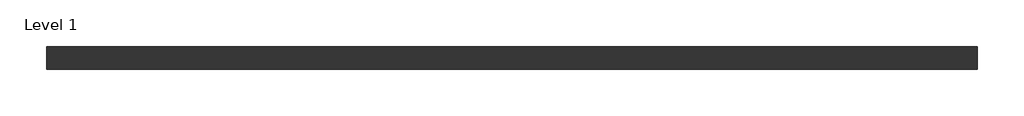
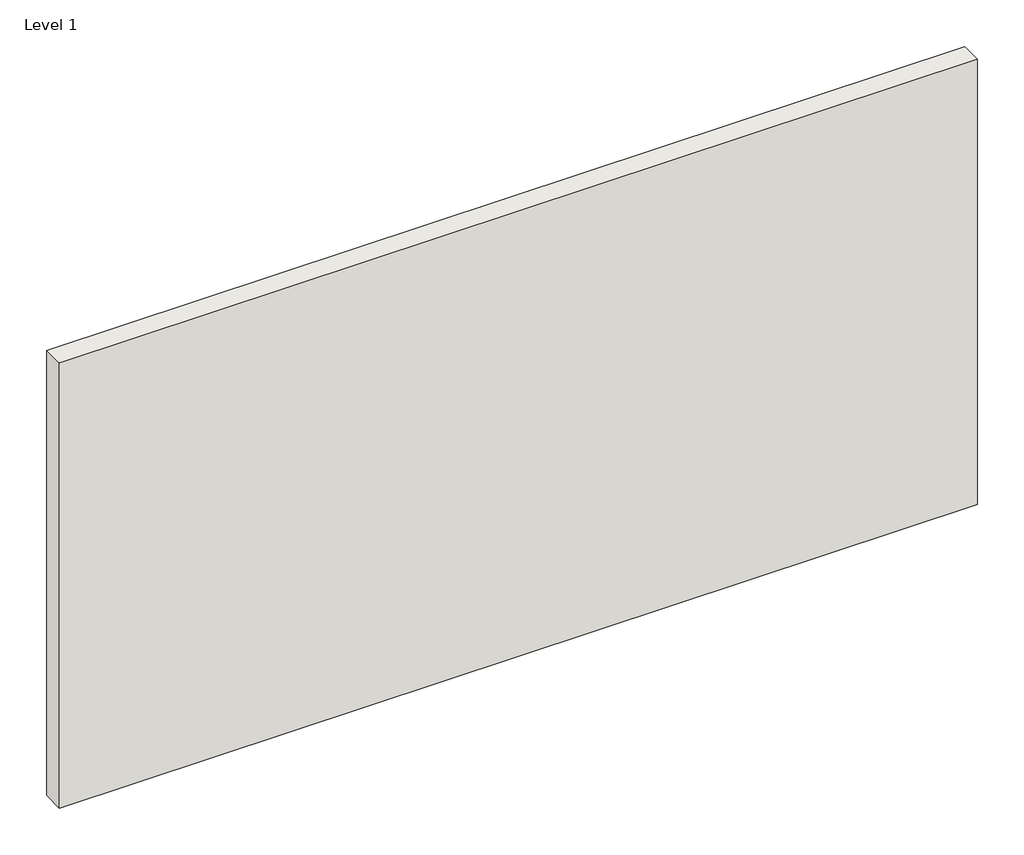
# One storey: 1 wall.
"""IFC4 building model written with IfcOpenShell, lengths in millimetres."""

from ifc_helpers import new_model, si_unit, origin, origin_with_axes, place, context, project, spatial, polyline, outline, extrude, element, save

model = new_model("IFC4")

# Units and contexts
model_context = context("Model", 3, world=origin())
ifc_project = project(units=[si_unit("LENGTHUNIT", "METRE", prefix="MILLI")], contexts=[model_context])

# Site, building, storey
site = spatial("IfcSite", under=ifc_project)
building = spatial("IfcBuilding", under=site)
storey = spatial("IfcBuildingStorey", under=building, Name="Level 1", Elevation=0.0)

# Wall
placement = place(None, origin())
element("IfcWall", 1, ObjectType="Exterior - Owens Corning - Steel Stud Wall - 11 3/8\"", at=placement, inside=storey, context=model_context, shape_type="SweptSolid", body=[
    extrude(outline(polyline([(-4668.0720562, 15975.6347389), (-16555.2720562, 15975.6347389), (-16555.2720562, 16264.5597389), (-4668.0720562, 16264.5597389), (-4668.0720562, 15975.6347389)])), origin_with_axes(), (0.0, 0.0, 1.0), 6096.0),
])

save(model, "model.ifc")
